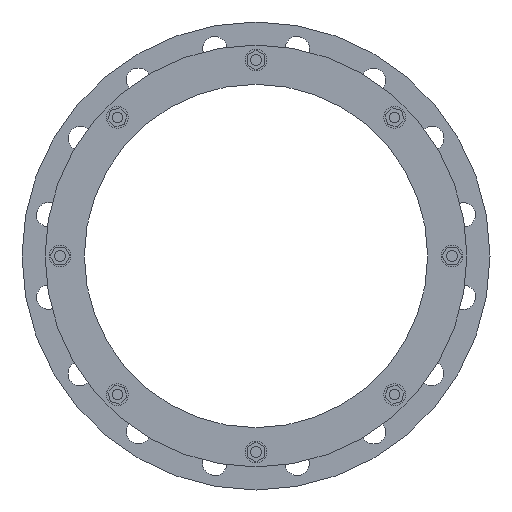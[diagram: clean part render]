
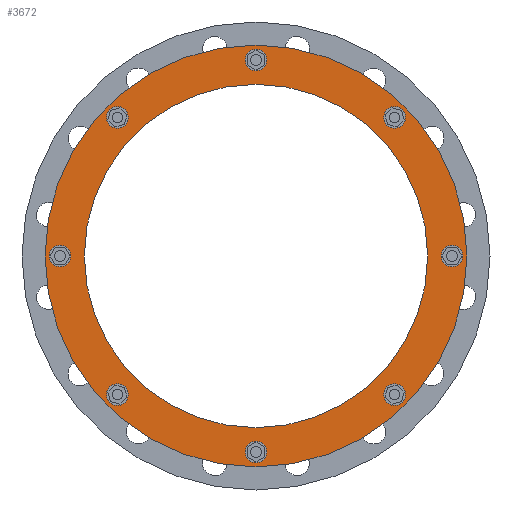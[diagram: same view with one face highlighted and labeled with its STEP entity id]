
A CAD part, front view. The second image highlights one B-rep face of the part: STEP entity #3672.
In plain terms, the highlighted planar face has unit normal (0, -1, 0).
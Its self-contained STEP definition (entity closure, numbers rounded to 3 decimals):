
#911=CARTESIAN_POINT('',(0.,-99.452,0.));
#912=DIRECTION('',(0.,-1.,0.));
#913=DIRECTION('',(1.,0.,0.));
#914=AXIS2_PLACEMENT_3D('',#911,#912,#913);
#916=CARTESIAN_POINT('',(0.,-99.452,0.));
#917=DIRECTION('',(0.,1.,0.));
#918=DIRECTION('',(1.,0.,0.));
#919=AXIS2_PLACEMENT_3D('',#916,#917,#918);
#921=CARTESIAN_POINT('',(217.75,-99.452,0.));
#922=DIRECTION('',(0.,-1.,0.));
#923=DIRECTION('',(0.,0.,-1.));
#924=AXIS2_PLACEMENT_3D('',#921,#922,#923);
#926=CARTESIAN_POINT('',(217.75,-99.452,0.));
#927=DIRECTION('',(0.,-1.,0.));
#928=DIRECTION('',(0.,0.,1.));
#929=AXIS2_PLACEMENT_3D('',#926,#927,#928);
#931=CARTESIAN_POINT('',(153.973,-99.452,153.973));
#932=DIRECTION('',(0.,-1.,0.));
#933=DIRECTION('',(0.707,0.,-0.707));
#934=AXIS2_PLACEMENT_3D('',#931,#932,#933);
#936=CARTESIAN_POINT('',(153.973,-99.452,153.973));
#937=DIRECTION('',(0.,-1.,0.));
#938=DIRECTION('',(-0.707,0.,0.707));
#939=AXIS2_PLACEMENT_3D('',#936,#937,#938);
#941=CARTESIAN_POINT('',(0.,-99.452,217.75));
#942=DIRECTION('',(0.,-1.,0.));
#943=DIRECTION('',(1.,0.,0.));
#944=AXIS2_PLACEMENT_3D('',#941,#942,#943);
#946=CARTESIAN_POINT('',(0.,-99.452,217.75));
#947=DIRECTION('',(0.,-1.,0.));
#948=DIRECTION('',(-1.,0.,0.));
#949=AXIS2_PLACEMENT_3D('',#946,#947,#948);
#951=CARTESIAN_POINT('',(-153.973,-99.452,153.973));
#952=DIRECTION('',(0.,-1.,0.));
#953=DIRECTION('',(0.707,0.,0.707));
#954=AXIS2_PLACEMENT_3D('',#951,#952,#953);
#956=CARTESIAN_POINT('',(-153.973,-99.452,153.973));
#957=DIRECTION('',(0.,-1.,0.));
#958=DIRECTION('',(-0.707,0.,-0.707));
#959=AXIS2_PLACEMENT_3D('',#956,#957,#958);
#961=CARTESIAN_POINT('',(-217.75,-99.452,0.));
#962=DIRECTION('',(0.,-1.,0.));
#963=DIRECTION('',(0.,0.,1.));
#964=AXIS2_PLACEMENT_3D('',#961,#962,#963);
#966=CARTESIAN_POINT('',(-217.75,-99.452,0.));
#967=DIRECTION('',(0.,-1.,0.));
#968=DIRECTION('',(0.,0.,-1.));
#969=AXIS2_PLACEMENT_3D('',#966,#967,#968);
#971=CARTESIAN_POINT('',(-153.973,-99.452,-153.973));
#972=DIRECTION('',(0.,-1.,0.));
#973=DIRECTION('',(-0.707,0.,0.707));
#974=AXIS2_PLACEMENT_3D('',#971,#972,#973);
#976=CARTESIAN_POINT('',(-153.973,-99.452,-153.973));
#977=DIRECTION('',(0.,-1.,0.));
#978=DIRECTION('',(0.707,0.,-0.707));
#979=AXIS2_PLACEMENT_3D('',#976,#977,#978);
#981=CARTESIAN_POINT('',(0.,-99.452,-217.75));
#982=DIRECTION('',(0.,-1.,0.));
#983=DIRECTION('',(-1.,0.,0.));
#984=AXIS2_PLACEMENT_3D('',#981,#982,#983);
#986=CARTESIAN_POINT('',(0.,-99.452,-217.75));
#987=DIRECTION('',(0.,-1.,0.));
#988=DIRECTION('',(1.,0.,0.));
#989=AXIS2_PLACEMENT_3D('',#986,#987,#988);
#991=CARTESIAN_POINT('',(153.973,-99.452,-153.973));
#992=DIRECTION('',(0.,-1.,0.));
#993=DIRECTION('',(-0.707,0.,-0.707));
#994=AXIS2_PLACEMENT_3D('',#991,#992,#993);
#996=CARTESIAN_POINT('',(153.973,-99.452,-153.973));
#997=DIRECTION('',(0.,-1.,0.));
#998=DIRECTION('',(0.707,0.,0.707));
#999=AXIS2_PLACEMENT_3D('',#996,#997,#998);
#1001=CARTESIAN_POINT('',(0.,-99.452,0.));
#1002=DIRECTION('',(0.,1.,0.));
#1003=DIRECTION('',(1.,0.,0.));
#1004=AXIS2_PLACEMENT_3D('',#1001,#1002,#1003);
#1014=CARTESIAN_POINT('',(0.,-99.452,0.));
#1015=DIRECTION('',(0.,-1.,0.));
#1016=DIRECTION('',(1.,0.,0.));
#1017=AXIS2_PLACEMENT_3D('',#1014,#1015,#1016);
#2385=CARTESIAN_POINT('',(234.35,-99.452,0.));
#2387=VERTEX_POINT('',#2385);
#2388=CARTESIAN_POINT('',(190.75,-99.452,0.));
#2390=VERTEX_POINT('',#2388);
#2397=CARTESIAN_POINT('',(-234.35,-99.452,0.));
#2399=VERTEX_POINT('',#2397);
#2400=CARTESIAN_POINT('',(-190.75,-99.452,0.));
#2402=VERTEX_POINT('',#2400);
#2439=CARTESIAN_POINT('',(217.75,-99.452,-12.));
#2440=CARTESIAN_POINT('',(217.75,-99.452,12.));
#2441=VERTEX_POINT('',#2439);
#2442=VERTEX_POINT('',#2440);
#2488=CARTESIAN_POINT('',(162.458,-99.452,145.487));
#2489=VERTEX_POINT('',#2488);
#2490=CARTESIAN_POINT('',(145.487,-99.452,162.458));
#2491=VERTEX_POINT('',#2490);
#2532=CARTESIAN_POINT('',(12.,-99.452,217.75));
#2533=VERTEX_POINT('',#2532);
#2534=CARTESIAN_POINT('',(-12.,-99.452,217.75));
#2535=VERTEX_POINT('',#2534);
#2576=CARTESIAN_POINT('',(-145.487,-99.452,162.458));
#2577=VERTEX_POINT('',#2576);
#2578=CARTESIAN_POINT('',(-162.458,-99.452,145.487));
#2579=VERTEX_POINT('',#2578);
#2620=CARTESIAN_POINT('',(-217.75,-99.452,12.));
#2621=VERTEX_POINT('',#2620);
#2622=CARTESIAN_POINT('',(-217.75,-99.452,-12.));
#2623=VERTEX_POINT('',#2622);
#2664=CARTESIAN_POINT('',(-162.458,-99.452,-145.487));
#2665=VERTEX_POINT('',#2664);
#2666=CARTESIAN_POINT('',(-145.487,-99.452,-162.458));
#2667=VERTEX_POINT('',#2666);
#2708=CARTESIAN_POINT('',(-12.,-99.452,-217.75));
#2709=VERTEX_POINT('',#2708);
#2710=CARTESIAN_POINT('',(12.,-99.452,-217.75));
#2711=VERTEX_POINT('',#2710);
#2752=CARTESIAN_POINT('',(145.487,-99.452,-162.458));
#2753=VERTEX_POINT('',#2752);
#2754=CARTESIAN_POINT('',(162.458,-99.452,-145.487));
#2755=VERTEX_POINT('',#2754);
#3609=CARTESIAN_POINT('',(0.,-99.452,0.));
#3610=DIRECTION('',(0.,1.,0.));
#3611=DIRECTION('',(-1.,0.,0.));
#3612=AXIS2_PLACEMENT_3D('',#3609,#3610,#3611);
#3613=PLANE('',#3612);
#3615=ORIENTED_EDGE('',*,*,#3614,.F.);
#3617=ORIENTED_EDGE('',*,*,#3616,.T.);
#3618=EDGE_LOOP('',(#3615,#3617));
#3619=FACE_OUTER_BOUND('',#3618,.F.);
#3621=ORIENTED_EDGE('',*,*,#3620,.F.);
#3623=ORIENTED_EDGE('',*,*,#3622,.T.);
#3624=EDGE_LOOP('',(#3621,#3623));
#3625=FACE_BOUND('',#3624,.F.);
#3627=ORIENTED_EDGE('',*,*,#3626,.T.);
#3629=ORIENTED_EDGE('',*,*,#3628,.T.);
#3630=EDGE_LOOP('',(#3627,#3629));
#3631=FACE_BOUND('',#3630,.F.);
#3633=ORIENTED_EDGE('',*,*,#3632,.T.);
#3635=ORIENTED_EDGE('',*,*,#3634,.T.);
#3636=EDGE_LOOP('',(#3633,#3635));
#3637=FACE_BOUND('',#3636,.F.);
#3639=ORIENTED_EDGE('',*,*,#3638,.T.);
#3641=ORIENTED_EDGE('',*,*,#3640,.T.);
#3642=EDGE_LOOP('',(#3639,#3641));
#3643=FACE_BOUND('',#3642,.F.);
#3645=ORIENTED_EDGE('',*,*,#3644,.T.);
#3647=ORIENTED_EDGE('',*,*,#3646,.T.);
#3648=EDGE_LOOP('',(#3645,#3647));
#3649=FACE_BOUND('',#3648,.F.);
#3651=ORIENTED_EDGE('',*,*,#3650,.T.);
#3653=ORIENTED_EDGE('',*,*,#3652,.T.);
#3654=EDGE_LOOP('',(#3651,#3653));
#3655=FACE_BOUND('',#3654,.F.);
#3657=ORIENTED_EDGE('',*,*,#3656,.T.);
#3659=ORIENTED_EDGE('',*,*,#3658,.T.);
#3660=EDGE_LOOP('',(#3657,#3659));
#3661=FACE_BOUND('',#3660,.F.);
#3662=ORIENTED_EDGE('',*,*,#3591,.T.);
#3663=ORIENTED_EDGE('',*,*,#3602,.T.);
#3664=EDGE_LOOP('',(#3662,#3663));
#3665=FACE_BOUND('',#3664,.F.);
#3667=ORIENTED_EDGE('',*,*,#3666,.T.);
#3669=ORIENTED_EDGE('',*,*,#3668,.T.);
#3670=EDGE_LOOP('',(#3667,#3669));
#3671=FACE_BOUND('',#3670,.F.);
#3672=ADVANCED_FACE('',(#3619,#3625,#3631,#3637,#3643,#3649,#3655,#3661,#3665,
#3671),#3613,.F.);
#915=CIRCLE('',#914,234.35);
#920=CIRCLE('',#919,234.35);
#925=CIRCLE('',#924,12.);
#930=CIRCLE('',#929,12.);
#935=CIRCLE('',#934,12.);
#940=CIRCLE('',#939,12.);
#945=CIRCLE('',#944,12.);
#950=CIRCLE('',#949,12.);
#955=CIRCLE('',#954,12.);
#960=CIRCLE('',#959,12.);
#965=CIRCLE('',#964,12.);
#970=CIRCLE('',#969,12.);
#975=CIRCLE('',#974,12.);
#980=CIRCLE('',#979,12.);
#985=CIRCLE('',#984,12.);
#990=CIRCLE('',#989,12.);
#995=CIRCLE('',#994,12.);
#1000=CIRCLE('',#999,12.);
#1005=CIRCLE('',#1004,190.75);
#1018=CIRCLE('',#1017,190.75);
#3591=EDGE_CURVE('',#2709,#2711,#985,.T.);
#3602=EDGE_CURVE('',#2711,#2709,#990,.T.);
#3614=EDGE_CURVE('',#2387,#2399,#915,.T.);
#3616=EDGE_CURVE('',#2387,#2399,#920,.T.);
#3620=EDGE_CURVE('',#2390,#2402,#1005,.T.);
#3622=EDGE_CURVE('',#2390,#2402,#1018,.T.);
#3626=EDGE_CURVE('',#2441,#2442,#925,.T.);
#3628=EDGE_CURVE('',#2442,#2441,#930,.T.);
#3632=EDGE_CURVE('',#2489,#2491,#935,.T.);
#3634=EDGE_CURVE('',#2491,#2489,#940,.T.);
#3638=EDGE_CURVE('',#2533,#2535,#945,.T.);
#3640=EDGE_CURVE('',#2535,#2533,#950,.T.);
#3644=EDGE_CURVE('',#2577,#2579,#955,.T.);
#3646=EDGE_CURVE('',#2579,#2577,#960,.T.);
#3650=EDGE_CURVE('',#2621,#2623,#965,.T.);
#3652=EDGE_CURVE('',#2623,#2621,#970,.T.);
#3656=EDGE_CURVE('',#2665,#2667,#975,.T.);
#3658=EDGE_CURVE('',#2667,#2665,#980,.T.);
#3666=EDGE_CURVE('',#2753,#2755,#995,.T.);
#3668=EDGE_CURVE('',#2755,#2753,#1000,.T.);
